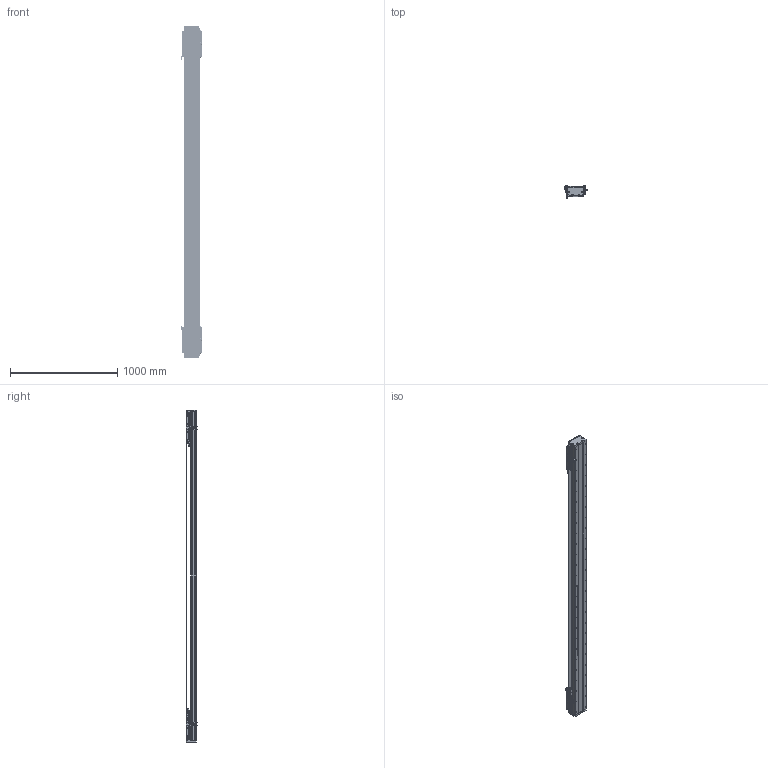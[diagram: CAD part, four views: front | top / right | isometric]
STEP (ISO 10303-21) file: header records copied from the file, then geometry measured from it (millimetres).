
FILE_DESCRIPTION (( 'STEP AP203' ), '1' );
FILE_NAME ('DA-C145-2-C3-T2480-C010-0.2 眻盄萇儂.STEP', '2025-08-13T10:27:56', ( '' ), ( '' ), 'SwSTEP 2.0', 'SolidWorks 2019', '' );
FILE_SCHEMA (( 'CONFIG_CONTROL_DESIGN' ));
Length unit declared in the file: millimetre
Products named in the file (38): 复件 DA145 钢带^复件 CU145 钢带组件_DA-C145-2-C3-T-C010-0.2; DKW-KGZ-ZJ-00 中间光电开关支架; CU145-W-00 珨极趙賑雄怢啣; 葩璃 DA145-C3-DP-B-00 菜えB^CU145-W 幗紩賑怢; 复件 半圆头内六角螺钉 M3×6^CU145-W 滚珠滑台; 葩璃 DMA-010-0.2 黍杅芛^DA-C145-2-C3-T-C010-0.2; 复件 DA95-MFP-01 密封片^CU145-W 滚珠滑台; 葩璃 PM-T45^DA-C145-2-C3-T-C010-0.2; 复件 DA145-C3-YB-B-00 压板B^CU145-W 滚珠滑台; 复件 DA146 钢带垫块^复件 CU145 钢带组件_DA-C145-2-C3-T-C010-0.2; 复件 DA95-HK-GT-00 滑块钢轨^CU145-W-00 一体化滑动台板; 复件 DA146 钢带拉块^复件 CU145 钢带组件_DA-C145-2-C3-T-C010-0.2; 复件 纯铜油杯 6x6mm^CU145-W 滚珠滑台; CU145-W-00 珨极趙賑雄怢啣-1; IU-CU145-L 菁釱絳寢; 葩璃 XD-U-02L 棠掑喜^DA-C145-2-C3-T-C010-0.2; 复件 DA145-DG 钢带端盖^复件 CU145 钢带组件_DA-C145-2-C3-T-C010-0.2; DKW-GYP-ZJ-00 笢潔嫖萇覜茼え; 复件 DA145-GYP-00 光电感应片^DA-C145-2-C3-T-C010-0.2; 复件 内六角平端紧定螺钉 GB.T77-2000 M5×10^CU145-W 滚珠滑台; 葩璃 CKMA01-W060-TRL^DA-C145-2-C3-T-C010-0.2; 葩璃 DA145-C3-DP-A-00 菜えA^CU145-W 幗紩賑怢; 66245-CU145-HT-W-00 賑雄怢啣(3D芞祧)(00); IU-CU145-L-00 菁釱(L3060); CU145-W 幗紩賑怢; CU145-W 幗紩賑怢-1; 复件 DA95-DB-00  挡板^CU145-W 滚珠滑台; 葩璃 CU145 詩湍郪璃^DA-C145-2-C3-T-C010-0.2; DKW168-HXJ-ZJ-00 笢潔滅袉砎蝶; 复件 DA145-C3-DK-00 挡块^CU145-W 滚珠滑台; 葩璃 PM-Y65^DA-C145-2-C3-T-C010-0.2; 葩璃 鞠褒情蹟譫 M3^DA-C145-2-C3-T-C010-0.2; 葩璃 CKM03-W060-C1C2-TP-0.2^DA-C145-2-C3-T-C010-0.2; DA-C145-2-C3-T2480-C010-0.2 眻盄萇儂; 复件 DA145-C3-YB-A-00 压板A^CU145-W 滚珠滑台; 葩璃 DA95-GT-T-00^IU-CU145-L 菁釱絳寢; 葩璃 DA95-HXJ-00 遣喳砎蝶^DA-C145-2-C3-T-C010-0.2; TAY01-M8
Assembly tree (180 placements, depth 4):
  DA-C145-2-C3-T2480-C010-0.2 眻盄萇儂
    IU-CU145-L 菁釱絳寢
      IU-CU145-L-00 菁釱(L3060)
      葩璃 DA95-GT-T-00^IU-CU145-L 菁釱絳寢  x4
    葩璃 CU145 詩湍郪璃^DA-C145-2-C3-T-C010-0.2
      复件 DA145-DG 钢带端盖^复件 CU145 钢带组件_DA-C145-2-C3-T-C010-0.2  x2
      复件 DA146 钢带拉块^复件 CU145 钢带组件_DA-C145-2-C3-T-C010-0.2  x2
      复件 DA146 钢带垫块^复件 CU145 钢带组件_DA-C145-2-C3-T-C010-0.2  x2
      复件 DA145 钢带^复件 CU145 钢带组件_DA-C145-2-C3-T-C010-0.2
    CU145-W 幗紩賑怢
      CU145-W-00 珨极趙賑雄怢啣
        66245-CU145-HT-W-00 賑雄怢啣(3D芞祧)(00)
        复件 DA95-HK-GT-00 滑块钢轨^CU145-W-00 一体化滑动台板  x8
      复件 DA95-MFP-01 密封片^CU145-W 滚珠滑台  x8
      复件 DA95-DB-00  挡板^CU145-W 滚珠滑台  x8
      复件 内六角平端紧定螺钉 GB.T77-2000 M5×10^CU145-W 滚珠滑台  x4
      复件 纯铜油杯 6x6mm^CU145-W 滚珠滑台  x4
      复件 半圆头内六角螺钉 M3×6^CU145-W 滚珠滑台  x16
      复件 DA145-C3-DK-00 挡块^CU145-W 滚珠滑台  x4
      葩璃 DA145-C3-DP-B-00 菜えB^CU145-W 幗紩賑怢  x2
      复件 DA145-C3-YB-B-00 压板B^CU145-W 滚珠滑台  x2
      葩璃 DA145-C3-DP-A-00 菜えA^CU145-W 幗紩賑怢  x3
      复件 DA145-C3-YB-A-00 压板A^CU145-W 滚珠滑台  x3
      TAY01-M8  x4
    CU145-W 幗紩賑怢-1
      CU145-W-00 珨极趙賑雄怢啣-1
        66245-CU145-HT-W-00 賑雄怢啣(3D芞祧)(00)
        复件 DA95-HK-GT-00 滑块钢轨^CU145-W-00 一体化滑动台板  x8
      复件 DA95-MFP-01 密封片^CU145-W 滚珠滑台  x8
      复件 DA95-DB-00  挡板^CU145-W 滚珠滑台  x8
      复件 内六角平端紧定螺钉 GB.T77-2000 M5×10^CU145-W 滚珠滑台  x4
      复件 纯铜油杯 6x6mm^CU145-W 滚珠滑台  x4
      复件 半圆头内六角螺钉 M3×6^CU145-W 滚珠滑台  x16
      复件 DA145-C3-DK-00 挡块^CU145-W 滚珠滑台  x4
      葩璃 DA145-C3-DP-B-00 菜えB^CU145-W 幗紩賑怢  x2
      复件 DA145-C3-YB-B-00 压板B^CU145-W 滚珠滑台  x2
      葩璃 DA145-C3-DP-A-00 菜えA^CU145-W 幗紩賑怢  x3
      复件 DA145-C3-YB-A-00 压板A^CU145-W 滚珠滑台  x3
      TAY01-M8  x4
    葩璃 CKMA01-W060-TRL^DA-C145-2-C3-T-C010-0.2
    葩璃 PM-T45^DA-C145-2-C3-T-C010-0.2  x4
    葩璃 XD-U-02L 棠掑喜^DA-C145-2-C3-T-C010-0.2
    葩璃 DA95-HXJ-00 遣喳砎蝶^DA-C145-2-C3-T-C010-0.2  x4
    葩璃 CKM03-W060-C1C2-TP-0.2^DA-C145-2-C3-T-C010-0.2  x2
    葩璃 DMA-010-0.2 黍杅芛^DA-C145-2-C3-T-C010-0.2  x2
    复件 DA145-GYP-00 光电感应片^DA-C145-2-C3-T-C010-0.2  x2
    DKW-GYP-ZJ-00 笢潔嫖萇覜茼え
    DKW-KGZ-ZJ-00 中间光电开关支架
    葩璃 PM-Y65^DA-C145-2-C3-T-C010-0.2
    葩璃 鞠褒情蹟譫 M3^DA-C145-2-C3-T-C010-0.2  x8
    DKW168-HXJ-ZJ-00 笢潔滅袉砎蝶
Bounding box: 213.7 x 108.45 x 3096 mm (x, y, z)
Volume: 16094040.7 mm3; surface area: 5177850.6 mm2
Topology: 175 solids, 239 shells, 7761 faces, 21297 edges, 13217 vertices
Faces by surface type: cylinder 3462, plane 2959, cone 1184, torus 140, sphere 8, bspline 8
Entity records: 152236 total; most frequent: CARTESIAN_POINT 45302, ORIENTED_EDGE 21280, DIRECTION 20017, EDGE_CURVE 10640, AXIS2_PLACEMENT_3D 7383, VERTEX_POINT 6916, LINE 5251, VECTOR 5251
